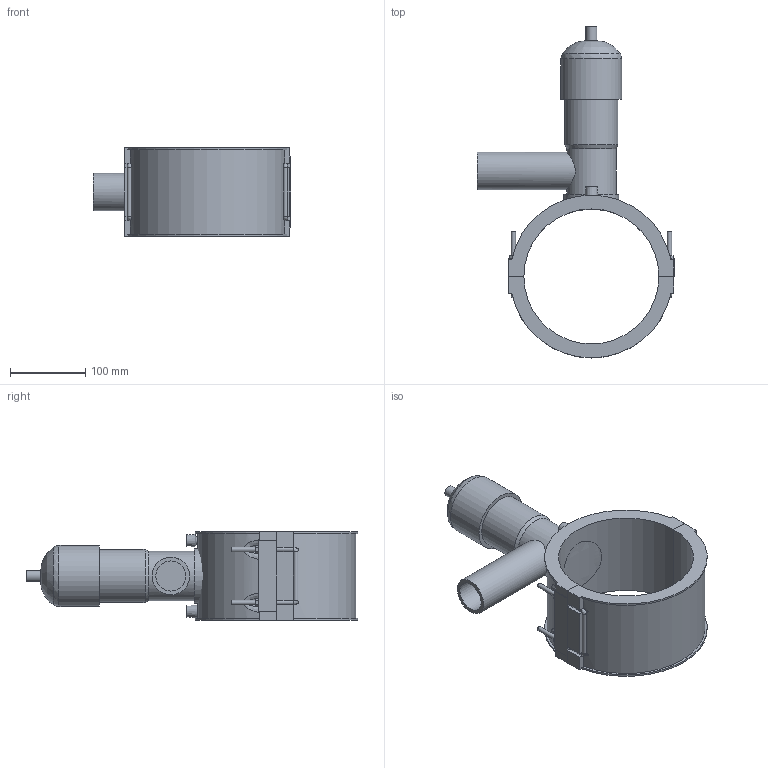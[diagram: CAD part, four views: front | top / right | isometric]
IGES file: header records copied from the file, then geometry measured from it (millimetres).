
Global section: file name: 495404180050.ipt; native system: Autodesk Inventor 2015; preprocessor: unknown; author: KIM; date: 20171106.094304; units: millimetre
Bounding box: 263 x 442.46 x 118 mm (x, y, z)
Volume: 2159268.2 mm3; surface area: 293526.4 mm2
Topology: 3 solids, 5 shells, 157 faces, 388 edges, 246 vertices
Faces by surface type: plane 93, cylinder 29, revolution 16, bspline 12, cone 7
Full cylindrical faces by diameter (mm): 4 x2, 6 x8, 14.64 x1, 50 x1, 65.88 x1, 70.76 x1, 73.2 x1, 81.333 x1
